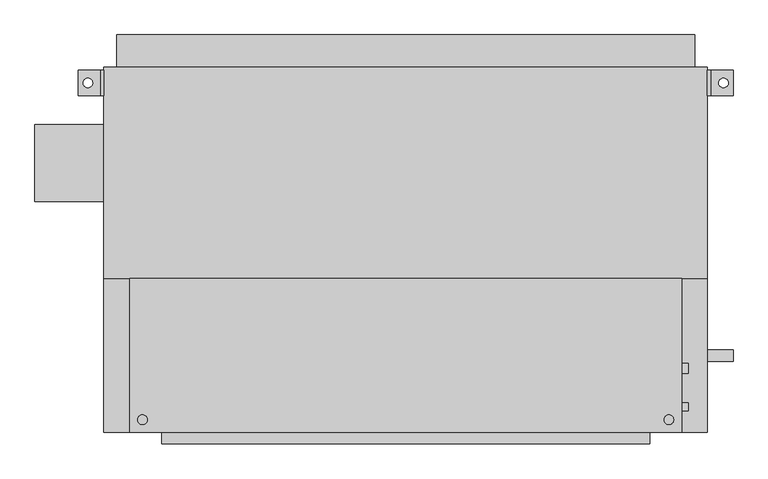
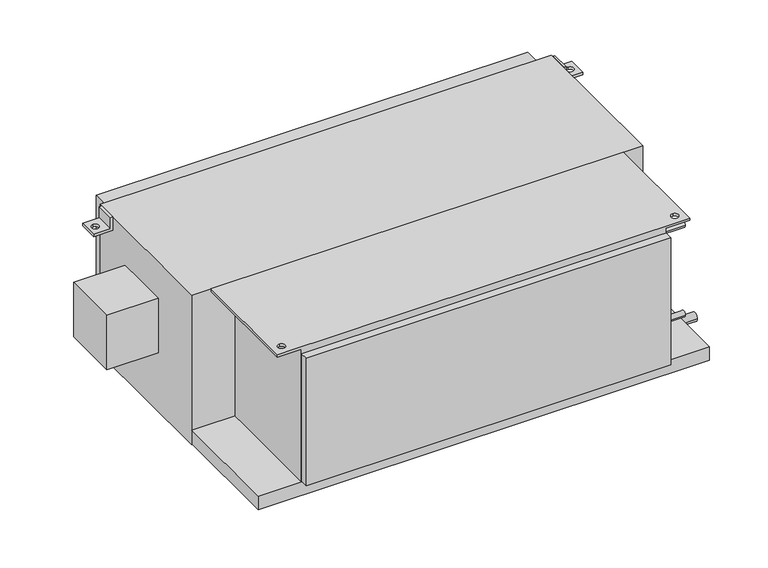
"""IFC4 building model written with IfcOpenShell, lengths in millimetres: proxy geometry, Concealed_High_Capacity_Horizontal_Fan_Coil_Unit_With_Plenum_-_42DCA_-_CARRIER_-_4-Pipe_RH_2022 : Size 16 - 277v/60Hz/1Ph - 6/2 Coil."""

from ifc_helpers import new_model, si_unit, point, frame, frame_2d, origin, place, context, project, spatial, polyline, circle_curve, trimmed, segment, composite_curve, outline, extrude, source, transform, mapped, element, save
from ifc_brep_helpers import plane_surface, revolved_surface, advanced_brep


def mechanical_equipment_a7e31f39(model_context):
    return source(origin(), model_context, "Body", "SolidModel", [
        advanced_brep(
        [(-393.7, -85.725, 0.0), (-393.7, -390.525, 0.0), (698.5, -390.525, 0.0), (698.5, -85.725, 0.0), (-368.3, -374.65, 0.0), (-368.3, -355.6, 0.0), (673.1, -374.65, 0.0), (673.1, -355.6, 0.0), (635.0, -85.725, -377.825), (635.0, -390.525, -377.825), (-330.2, -390.525, -377.825), (-330.2, -85.725, -377.825), (-330.2, -85.725, -6.35), (-393.7, -85.725, -6.35), (698.5, -85.725, -6.35), (635.0, -85.725, -6.35), (-330.2, -390.525, -6.35), (635.0, -390.525, -6.35), (698.5, -390.525, -6.35), (-393.7, -390.525, -6.35), (-368.3, -355.6, -6.35), (-368.3, -374.65, -6.35), (673.1, -355.6, -6.35), (673.1, -374.65, -6.35)],
        [
            (0, 1),
            (1, 2),
            (2, 3),
            (3, 0),
            (4, 5, circle_curve(frame((-368.3, -365.125, 0.0), z_axis=(0.0, 0.0, -1.0), x_axis=(0.0, 1.0, 0.0)), 9.525)),
            (5, 4, circle_curve(frame((-368.3, -365.125, 0.0), z_axis=(0.0, 0.0, -1.0), x_axis=(0.0, 1.0, 0.0)), 9.525)),
            (6, 7, circle_curve(frame((673.1, -365.125, 0.0), z_axis=(0.0, 0.0, -1.0), x_axis=(0.0, 1.0, 0.0)), 9.525)),
            (7, 6, circle_curve(frame((673.1, -365.125, 0.0), z_axis=(0.0, 0.0, -1.0), x_axis=(0.0, 1.0, 0.0)), 9.525)),
            (8, 9),
            (9, 10),
            (10, 11),
            (11, 8),
            (11, 12),
            (12, 13),
            (13, 0),
            (3, 14),
            (14, 15),
            (15, 8),
            (10, 16),
            (16, 12),
            (9, 17),
            (17, 18),
            (18, 2),
            (1, 19),
            (19, 16),
            (15, 17),
            (19, 13),
            (20, 21, circle_curve(frame((-368.3, -365.125, -6.35), z_axis=(0.0, 0.0, 1.0), x_axis=(0.0, 1.0, 0.0)), 9.525)),
            (21, 20, circle_curve(frame((-368.3, -365.125, -6.35), z_axis=(0.0, 0.0, 1.0), x_axis=(0.0, 1.0, 0.0)), 9.525)),
            (14, 18),
            (22, 23, circle_curve(frame((673.1, -365.125, -6.35), z_axis=(0.0, 0.0, 1.0), x_axis=(0.0, 1.0, 0.0)), 9.525)),
            (23, 22, circle_curve(frame((673.1, -365.125, -6.35), z_axis=(0.0, 0.0, 1.0), x_axis=(0.0, 1.0, 0.0)), 9.525)),
            (4, 21),
            (20, 5),
            (6, 23),
            (22, 7),
        ],
        [
            plane_surface(frame((-330.2, -85.725, 0.0), z_axis=(0.0, 0.0, 1.0), x_axis=(-1.0, 0.0, 0.0))),
            plane_surface(frame((-330.2, -85.725, -377.825), z_axis=(0.0, 0.0, -1.0), x_axis=(1.0, 0.0, 0.0))),
            plane_surface(frame((635.0, -85.725, 0.0), z_axis=(0.0, 1.0, 0.0), x_axis=(0.0, 0.0, -1.0))),
            plane_surface(frame((-330.2, -85.725, 0.0), z_axis=(-1.0, 0.0, 0.0), x_axis=(0.0, 0.0, -1.0))),
            plane_surface(frame((-330.2, -390.525, 0.0), z_axis=(0.0, -1.0, 0.0), x_axis=(0.0, 0.0, -1.0))),
            plane_surface(frame((635.0, -390.525, 0.0), z_axis=(1.0, 0.0, 0.0), x_axis=(0.0, 0.0, -1.0))),
            plane_surface(frame((-393.7, -85.725, -6.35), z_axis=(0.0, 0.0, -1.0), x_axis=(0.0, 1.0, 0.0))),
            plane_surface(frame((-393.7, -85.725, 0.0), z_axis=(-1.0, 0.0, 0.0), x_axis=(0.0, 0.0, -1.0))),
            plane_surface(frame((698.5, -390.525, 0.0), z_axis=(1.0, 0.0, 0.0), x_axis=(0.0, 0.0, -1.0))),
            revolved_surface(polyline([(-368.3, -355.6, -6.35), (-368.3, -355.6, 0.0)]), (-368.3, -365.125, 0.0), (0.0, 0.0, -1.0)),
            revolved_surface(polyline([(673.1, -355.6, -6.35), (673.1, -355.6, 0.0)]), (673.1, -365.125, 0.0), (0.0, 0.0, -1.0)),
        ],
        [
            (0, [[1, 2, 3, 4], [5, 6], [7, 8]]),
            (1, [[9, 10, 11, 12]]),
            (2, [[-12, 13, 14, 15, -4, 16, 17, 18]]),
            (3, [[-11, 19, 20, -13]]),
            (4, [[-10, 21, 22, 23, -2, 24, 25, -19]]),
            (5, [[-9, -18, 26, -21]]),
            (6, [[-14, -20, -25, 27], [28, 29]]),
            (6, [[30, -22, -26, -17], [31, 32]]),
            (7, [[-27, -24, -1, -15]]),
            (8, [[-30, -16, -3, -23]]),
            (9, [[33, -28, 34, -5]]),
            (9, [[-33, -6, -34, -29]]),
            (10, [[35, -31, 36, -7]]),
            (10, [[-35, -8, -36, -32]]),
        ],
    ),
        advanced_brep(
        [(-444.5, 327.025, -38.1), (-495.3, 327.025, -38.1), (-495.3, 327.025, -31.75), (-450.85, 327.025, -31.75), (-450.85, 327.025, 0.0), (-444.5, 327.025, 0.0), (-444.5, 276.225, -38.1), (-444.5, 276.225, 0.0), (-450.85, 276.225, 0.0), (-450.85, 276.225, -31.75), (-495.3, 276.225, -31.75), (-495.3, 276.225, -38.1), (-476.25, 292.1, -38.1), (-476.25, 311.15, -38.1), (-476.25, 311.15, -31.75), (-476.25, 292.1, -31.75)],
        [
            (0, 1),
            (1, 2),
            (2, 3),
            (3, 4),
            (4, 5),
            (5, 0),
            (6, 7),
            (7, 8),
            (8, 9),
            (9, 10),
            (10, 11),
            (11, 6),
            (0, 6),
            (11, 1),
            (12, 13, circle_curve(frame((-476.25, 301.625, -38.1), z_axis=(0.0, 0.0, 1.0), x_axis=(0.0, -1.0, 0.0)), 9.525)),
            (13, 12, circle_curve(frame((-476.25, 301.625, -38.1), z_axis=(0.0, 0.0, 1.0), x_axis=(0.0, -1.0, 0.0)), 9.525)),
            (10, 2),
            (9, 3),
            (14, 15, circle_curve(frame((-476.25, 301.625, -31.75), z_axis=(0.0, 0.0, -1.0), x_axis=(0.0, -1.0, 0.0)), 9.525)),
            (15, 14, circle_curve(frame((-476.25, 301.625, -31.75), z_axis=(0.0, 0.0, -1.0), x_axis=(0.0, -1.0, 0.0)), 9.525)),
            (8, 4),
            (7, 5),
            (14, 13),
            (12, 15),
        ],
        [
            plane_surface(frame((-444.5, 327.025, -38.1), z_axis=(0.0, 1.0, 0.0), x_axis=(-1.0, 0.0, 0.0))),
            plane_surface(frame((-444.5, 276.225, -38.1), z_axis=(0.0, -1.0, 0.0), x_axis=(1.0, 0.0, 0.0))),
            plane_surface(frame((-444.5, 327.025, -38.1), z_axis=(0.0, 0.0, -1.0), x_axis=(0.0, -1.0, 0.0))),
            plane_surface(frame((-495.3, 327.025, -38.1), z_axis=(-1.0, 0.0, 0.0), x_axis=(0.0, -1.0, 0.0))),
            plane_surface(frame((-495.3, 327.025, -31.75), z_axis=(0.0, 0.0, 1.0), x_axis=(0.0, -1.0, 0.0))),
            plane_surface(frame((-450.85, 327.025, -31.75), z_axis=(-1.0, 0.0, 0.0), x_axis=(0.0, -1.0, 0.0))),
            plane_surface(frame((-450.85, 327.025, 0.0), z_axis=(0.0, 0.0, 1.0), x_axis=(0.0, -1.0, 0.0))),
            plane_surface(frame((-444.5, 327.025, 0.0), z_axis=(1.0, 0.0, 0.0), x_axis=(0.0, -1.0, 0.0))),
            revolved_surface(polyline([(-476.25, 292.1, -38.1), (-476.25, 292.1, -31.75)]), (-476.25, 301.625, -31.75), (0.0, 0.0, -1.0)),
        ],
        [
            (0, [[1, 2, 3, 4, 5, 6]]),
            (1, [[7, 8, 9, 10, 11, 12]]),
            (2, [[-1, 13, -12, 14], [15, 16]]),
            (3, [[-2, -14, -11, 17]]),
            (4, [[-3, -17, -10, 18], [19, 20]]),
            (5, [[-4, -18, -9, 21]]),
            (6, [[-5, -21, -8, 22]]),
            (7, [[-6, -22, -7, -13]]),
            (8, [[23, -15, 24, -19]]),
            (8, [[-23, -20, -24, -16]]),
        ],
    ),
        advanced_brep(
        [(749.3, 327.025, -38.1), (749.3, 327.025, 0.0), (755.65, 327.025, 0.0), (755.65, 327.025, -31.75), (800.1, 327.025, -31.75), (800.1, 327.025, -38.1), (749.3, 276.225, -38.1), (800.1, 276.225, -38.1), (800.1, 276.225, -31.75), (755.65, 276.225, -31.75), (755.65, 276.225, 0.0), (749.3, 276.225, 0.0), (781.05, 311.15, -31.75), (781.05, 292.1, -31.75), (781.05, 292.1, -38.1), (781.05, 311.15, -38.1)],
        [
            (0, 1),
            (1, 2),
            (2, 3),
            (3, 4),
            (4, 5),
            (5, 0),
            (6, 7),
            (7, 8),
            (8, 9),
            (9, 10),
            (10, 11),
            (11, 6),
            (0, 6),
            (11, 1),
            (10, 2),
            (9, 3),
            (8, 4),
            (12, 13, circle_curve(frame((781.05, 301.625, -31.75), z_axis=(0.0, 0.0, -1.0), x_axis=(0.0, -1.0, 0.0)), 9.525)),
            (13, 12, circle_curve(frame((781.05, 301.625, -31.75), z_axis=(0.0, 0.0, -1.0), x_axis=(0.0, -1.0, 0.0)), 9.525)),
            (7, 5),
            (14, 15, circle_curve(frame((781.05, 301.625, -38.1), z_axis=(0.0, 0.0, 1.0), x_axis=(0.0, -1.0, 0.0)), 9.525)),
            (15, 14, circle_curve(frame((781.05, 301.625, -38.1), z_axis=(0.0, 0.0, 1.0), x_axis=(0.0, -1.0, 0.0)), 9.525)),
            (12, 15),
            (14, 13),
        ],
        [
            plane_surface(frame((-444.5, 327.025, -38.1), z_axis=(0.0, 1.0, 0.0), x_axis=(-1.0, 0.0, 0.0))),
            plane_surface(frame((-444.5, 276.225, -38.1), z_axis=(0.0, -1.0, 0.0), x_axis=(1.0, 0.0, 0.0))),
            plane_surface(frame((749.3, 327.025, -38.1), z_axis=(-1.0, 0.0, 0.0), x_axis=(0.0, -1.0, 0.0))),
            plane_surface(frame((749.3, 327.025, 0.0), z_axis=(0.0, 0.0, 1.0), x_axis=(0.0, -1.0, 0.0))),
            plane_surface(frame((755.65, 327.025, 0.0), z_axis=(1.0, 0.0, 0.0), x_axis=(0.0, -1.0, 0.0))),
            plane_surface(frame((755.65, 327.025, -31.75), z_axis=(0.0, 0.0, 1.0), x_axis=(0.0, -1.0, 0.0))),
            plane_surface(frame((800.1, 327.025, -31.75), z_axis=(1.0, 0.0, 0.0), x_axis=(0.0, -1.0, 0.0))),
            plane_surface(frame((800.1, 327.025, -38.1), z_axis=(0.0, 0.0, -1.0), x_axis=(0.0, -1.0, 0.0))),
            revolved_surface(polyline([(781.05, 292.1, -38.1), (781.05, 292.1, -31.75)]), (781.05, 301.625, -31.75), (0.0, 0.0, -1.0)),
        ],
        [
            (0, [[1, 2, 3, 4, 5, 6]]),
            (1, [[7, 8, 9, 10, 11, 12]]),
            (2, [[-1, 13, -12, 14]]),
            (3, [[-2, -14, -11, 15]]),
            (4, [[-3, -15, -10, 16]]),
            (5, [[-4, -16, -9, 17], [18, 19]]),
            (6, [[-5, -17, -8, 20]]),
            (7, [[-6, -20, -7, -13], [21, 22]]),
            (8, [[23, -21, 24, -18]]),
            (8, [[-23, -19, -24, -22]]),
        ],
    ),
        extrude(outline(polyline([(-419.1, 396.875), (723.9, 396.875), (723.9, 333.375), (-419.1, 333.375), (-419.1, 396.875)])), frame((0.0, 0.0, -377.825), z_axis=(0.0, 0.0, 1.0), x_axis=(1.0, 0.0, 0.0)), (0.0, 0.0, 1.0), 355.6),
        extrude(outline(composite_curve([segment(trimmed(circle_curve(frame_2d((-263.525, -76.2)), 9.525), [point((-254.0, -76.2))], [point((-273.05, -76.2))], False, "CARTESIAN"), True, "CONTINUOUS"), segment(trimmed(circle_curve(frame_2d((-263.525, -76.2)), 9.525), [point((-273.05, -76.2))], [point((-254.0, -76.2))], False, "CARTESIAN"), True, "CONTINUOUS")], self_intersect=False)), frame((635.0, 0.0, 0.0), z_axis=(1.0, 0.0, 0.0), x_axis=(0.0, 1.0, 0.0)), (0.0, 0.0, 1.0), 76.2),
        extrude(outline(composite_curve([segment(trimmed(circle_curve(frame_2d((-263.525, -301.625)), 9.525), [point((-254.0, -301.625))], [point((-273.05, -301.625))], False, "CARTESIAN"), True, "CONTINUOUS"), segment(trimmed(circle_curve(frame_2d((-263.525, -301.625)), 9.525), [point((-273.05, -301.625))], [point((-254.0, -301.625))], False, "CARTESIAN"), True, "CONTINUOUS")], self_intersect=False)), frame((635.0, 0.0, 0.0), z_axis=(1.0, 0.0, 0.0), x_axis=(0.0, 1.0, 0.0)), (0.0, 0.0, 1.0), 76.2),
        extrude(outline(composite_curve([segment(trimmed(circle_curve(frame_2d((-339.725, -50.8)), 7.9375), [point((-331.7875, -50.8))], [point((-347.6625, -50.8))], False, "CARTESIAN"), True, "CONTINUOUS"), segment(trimmed(circle_curve(frame_2d((-339.725, -50.8)), 7.9375), [point((-347.6625, -50.8))], [point((-331.7875, -50.8))], False, "CARTESIAN"), True, "CONTINUOUS")], self_intersect=False)), frame((635.0, 0.0, 0.0), z_axis=(1.0, 0.0, 0.0), x_axis=(0.0, 1.0, 0.0)), (0.0, 0.0, 1.0), 76.2),
        extrude(outline(composite_curve([segment(trimmed(circle_curve(frame_2d((-339.725, -301.625)), 7.9375), [point((-331.7875, -301.625))], [point((-347.6625, -301.625))], False, "CARTESIAN"), True, "CONTINUOUS"), segment(trimmed(circle_curve(frame_2d((-339.725, -301.625)), 7.9375), [point((-347.6625, -301.625))], [point((-331.7875, -301.625))], False, "CARTESIAN"), True, "CONTINUOUS")], self_intersect=False)), frame((635.0, 0.0, 0.0), z_axis=(1.0, 0.0, 0.0), x_axis=(0.0, 1.0, 0.0)), (0.0, 0.0, 1.0), 76.2),
        extrude(outline(composite_curve([segment(trimmed(circle_curve(frame_2d((-238.125, -403.225)), 11.1125), [point((-227.0125, -403.225))], [point((-249.2375, -403.225))], False, "CARTESIAN"), True, "CONTINUOUS"), segment(trimmed(circle_curve(frame_2d((-238.125, -403.225)), 11.1125), [point((-249.2375, -403.225))], [point((-227.0125, -403.225))], False, "CARTESIAN"), True, "CONTINUOUS")], self_intersect=False)), frame((749.3, 0.0, 0.0), z_axis=(1.0, 0.0, 0.0), x_axis=(0.0, 1.0, 0.0)), (0.0, 0.0, 1.0), 50.8),
        extrude(outline(polyline([(-581.025, 66.675), (-581.025, 219.075), (-444.5, 219.075), (-444.5, 66.675), (-581.025, 66.675)])), frame((0.0, 0.0, -254.0), z_axis=(0.0, 0.0, 1.0), x_axis=(1.0, 0.0, 0.0)), (0.0, 0.0, 1.0), 152.4),
        extrude(outline(polyline([(635.0, -412.75), (-330.2, -412.75), (-330.2, -390.525), (635.0, -390.525), (635.0, -412.75)])), frame((0.0, 0.0, -374.65), z_axis=(0.0, 0.0, 1.0), x_axis=(1.0, 0.0, 0.0)), (0.0, 0.0, 1.0), 355.6),
        extrude(outline(polyline([(749.3, -85.725), (-444.5, -85.725), (-444.5, 333.375), (749.3, 333.375), (749.3, -85.725)])), frame((0.0, 0.0, -419.1), z_axis=(0.0, 0.0, 1.0), x_axis=(1.0, 0.0, 0.0)), (0.0, 0.0, 1.0), 419.1),
        extrude(outline(polyline([(749.3, -85.725), (749.3, -390.525), (-444.5, -390.525), (-444.5, -85.725), (749.3, -85.725)])), frame((0.0, 0.0, -415.925), z_axis=(0.0, 0.0, 1.0), x_axis=(1.0, 0.0, 0.0)), (0.0, 0.0, 1.0), 38.1),
    ])


if __name__ == "__main__":
    model = new_model("IFC4")
    model_context = context("Model", 3, world=origin())
    ifc_project = project(units=[si_unit("LENGTHUNIT", "METRE", prefix="MILLI")], contexts=[model_context])
    site = spatial("IfcSite", under=ifc_project)
    building = spatial("IfcBuilding", under=site)
    placement = place(None, origin())
    mechanical_equipment_shape = mechanical_equipment_a7e31f39(model_context)
    element("IfcBuildingElementProxy", 1, Name="Concealed_High_Capacity_Horizontal_Fan_Coil_Unit_With_Plenum_-_42DCA_-_CARRIER_-_4-Pipe_RH_2022 : Size 16 - 277v/60Hz/1Ph - 6/2 Coil", ObjectType="Concealed_High_Capacity_Horizontal_Fan_Coil_Unit_With_Plenum_-_42DCA_-_CARRIER_-_4-Pipe_RH_2022 : Size 16 - 277v/60Hz/1Ph - 6/2 Coil", at=placement, inside=building, context=model_context, shape_type="MappedRepresentation", body=[
        mapped(mechanical_equipment_shape, transform((0.0, 0.0, 0.0), x_axis=(1.0, 0.0, 0.0), y_axis=(0.0, 1.0, 0.0), z_axis=(0.0, 0.0, 1.0))),
    ])
    save(model, "model.ifc")
